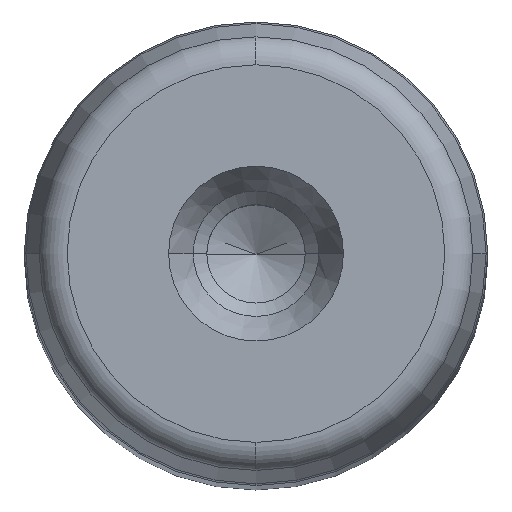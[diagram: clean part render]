
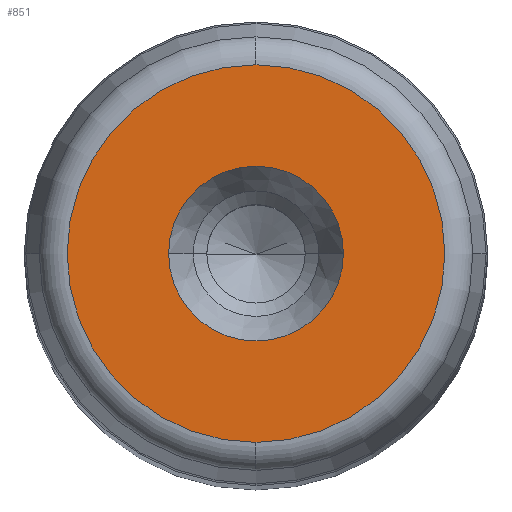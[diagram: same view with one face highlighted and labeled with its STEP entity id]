
A CAD part, top view. The second image highlights one B-rep face of the part: STEP entity #851.
In plain terms, the highlighted planar face has unit normal (0, 0, 1) as drawn and (0, 1, 0) by its records, which use the part's own axes.
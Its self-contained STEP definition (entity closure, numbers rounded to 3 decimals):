
#281=CARTESIAN_POINT('',(9.05,280.0,0.0));
#282=VERTEX_POINT('',#281);
#289=CARTESIAN_POINT('',(-9.05,280.0,0.));
#290=VERTEX_POINT('',#289);
#291=CARTESIAN_POINT('',(0.0,280.0,0.0));
#292=DIRECTION('',(0.0,1.0,0.0));
#293=DIRECTION('',(1.0,0.0,0.0));
#294=AXIS2_PLACEMENT_3D('',#291,#292,#293);
#295=CIRCLE('',#294,9.05);
#296=EDGE_CURVE('',#282,#290,#295,.T.);
#313=CARTESIAN_POINT('',(0.0,280.0,19.554));
#314=VERTEX_POINT('',#313);
#324=CARTESIAN_POINT('',(0.,280.0,-19.554));
#325=VERTEX_POINT('',#324);
#326=CARTESIAN_POINT('',(0.0,280.0,0.0));
#327=DIRECTION('',(0.0,1.0,0.0));
#328=DIRECTION('',(1.0,0.0,0.0));
#329=AXIS2_PLACEMENT_3D('',#326,#327,#328);
#330=CIRCLE('',#329,19.554);
#331=EDGE_CURVE('',#325,#314,#330,.T.);
#812=CARTESIAN_POINT('',(19.554,280.0,0.0));
#813=VERTEX_POINT('',#812);
#814=CARTESIAN_POINT('',(0.0,280.0,0.0));
#815=DIRECTION('',(0.0,1.0,0.0));
#816=DIRECTION('',(1.0,0.0,0.0));
#817=AXIS2_PLACEMENT_3D('',#814,#815,#816);
#818=CIRCLE('',#817,19.554);
#819=EDGE_CURVE('',#813,#325,#818,.T.);
#821=CARTESIAN_POINT('',(0.0,280.0,0.0));
#822=DIRECTION('',(0.0,1.0,0.0));
#823=DIRECTION('',(1.0,0.0,0.0));
#824=AXIS2_PLACEMENT_3D('',#821,#822,#823);
#825=CIRCLE('',#824,19.554);
#826=EDGE_CURVE('',#314,#813,#825,.T.);
#831=CARTESIAN_POINT('',(-21.51,280.0,-21.51));
#832=DIRECTION('',(0.0,1.0,0.0));
#833=DIRECTION('',(0.0,0.0,1.0));
#834=AXIS2_PLACEMENT_3D('',#831,#832,#833);
#835=PLANE('',#834);
#836=ORIENTED_EDGE('',*,*,#819,.T.);
#837=ORIENTED_EDGE('',*,*,#331,.T.);
#838=ORIENTED_EDGE('',*,*,#826,.T.);
#839=EDGE_LOOP('',(#836,#837,#838));
#840=FACE_OUTER_BOUND('',#839,.T.);
#841=ORIENTED_EDGE('',*,*,#296,.F.);
#842=CARTESIAN_POINT('',(0.0,280.0,0.0));
#843=DIRECTION('',(0.0,1.0,0.0));
#844=DIRECTION('',(1.0,0.0,0.0));
#845=AXIS2_PLACEMENT_3D('',#842,#843,#844);
#846=CIRCLE('',#845,9.05);
#847=EDGE_CURVE('',#290,#282,#846,.T.);
#848=ORIENTED_EDGE('',*,*,#847,.F.);
#849=EDGE_LOOP('',(#841,#848));
#850=FACE_BOUND('',#849,.T.);
#851=ADVANCED_FACE('',(#840,#850),#835,.T.);
